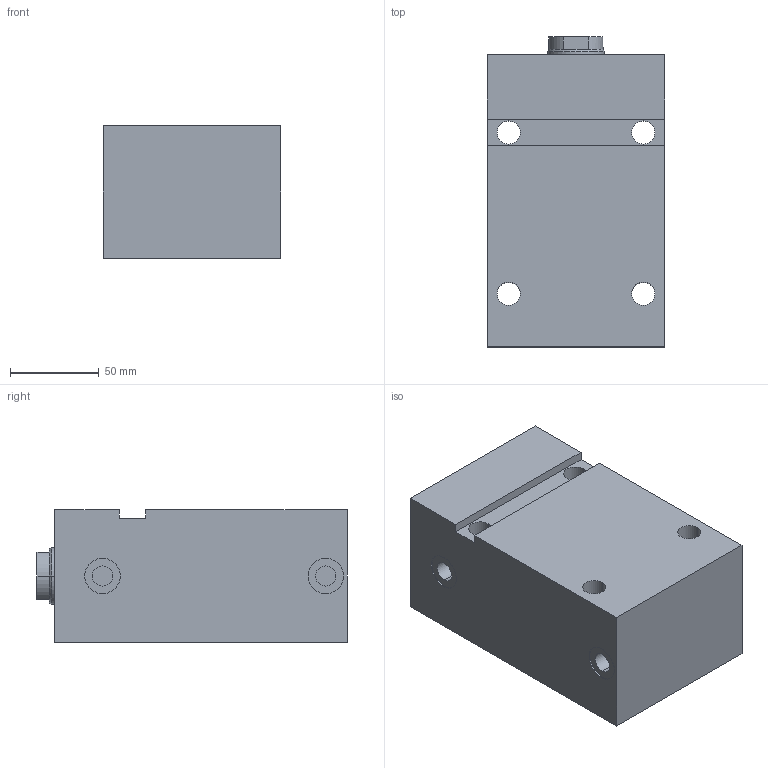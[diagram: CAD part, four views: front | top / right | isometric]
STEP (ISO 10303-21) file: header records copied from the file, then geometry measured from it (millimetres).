
FILE_DESCRIPTION (( 'STEP AP203' ), '1' );
FILE_NAME ('GERMA_Blockzylinder_602-050-100.STEP', '2015-08-22T18:35:21', ( '' ), ( '' ), 'SwSTEP 2.0', 'SolidWorks 2015', '' );
FILE_SCHEMA (( 'CONFIG_CONTROL_DESIGN' ));
Length unit declared in the file: millimetre
Products named in the file (3): GERMA_Blockzylinder_602-050-100; GH-600-050_GH-602-050-100; Kolben 60x-050_Kolben DU.50-Hub100-IG
Assembly tree (2 placements, depth 2):
  GERMA_Blockzylinder_602-050-100
    GH-600-050_GH-602-050-100
    Kolben 60x-050_Kolben DU.50-Hub100-IG
Bounding box: 100 x 175 x 75 mm (x, y, z)
Volume: 1069755.8 mm3; surface area: 133899.3 mm2
Topology: 2 solids, 2 shells, 77 faces, 172 edges, 106 vertices
Faces by surface type: cylinder 37, plane 26, cone 14
Entity records: 2434 total; most frequent: DIRECTION 415, CARTESIAN_POINT 354, ORIENTED_EDGE 332, AXIS2_PLACEMENT_3D 167, EDGE_CURVE 166, VERTEX_POINT 106, EDGE_LOOP 98, CIRCLE 85
